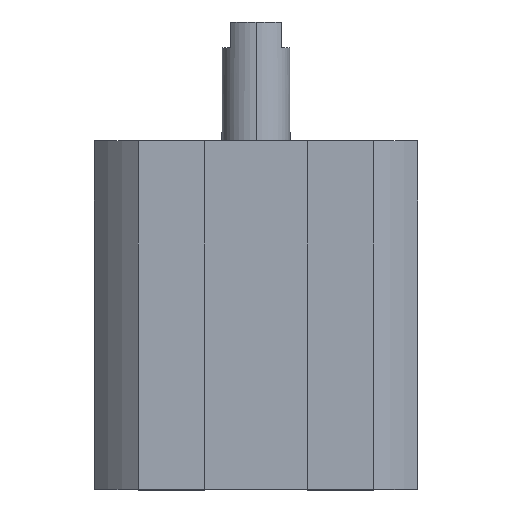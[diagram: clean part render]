
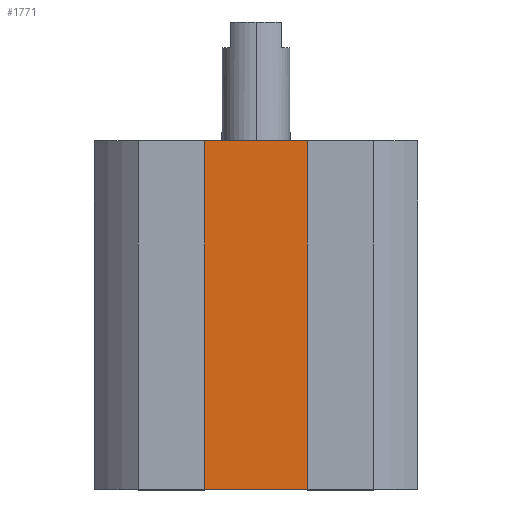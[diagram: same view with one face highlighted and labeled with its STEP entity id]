
A CAD part, top view. The second image highlights one B-rep face of the part: STEP entity #1771.
In plain terms, the highlighted planar face has unit normal (0, 0, 1).
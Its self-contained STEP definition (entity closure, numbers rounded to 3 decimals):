
#196 = EDGE_CURVE ( 'NONE', #1849, #643, #1749, .T. ) ;
#284 = VECTOR ( 'NONE', #1788, 1000. ) ;
#341 = AXIS2_PLACEMENT_3D ( 'NONE', #1702, #841, #1084 ) ;
#392 = DIRECTION ( 'NONE',  ( 0., 1., 0. ) ) ;
#402 = DIRECTION ( 'NONE',  ( 1., 0., 0. ) ) ;
#454 = VERTEX_POINT ( 'NONE', #2512 ) ;
#544 = EDGE_LOOP ( 'NONE', ( #1946, #2451, #1157, #1143 ) ) ;
#561 = EDGE_CURVE ( 'NONE', #643, #454, #1356, .T. ) ;
#643 = VERTEX_POINT ( 'NONE', #1976 ) ;
#747 = VERTEX_POINT ( 'NONE', #1051 ) ;
#763 = VECTOR ( 'NONE', #2504, 1000. ) ;
#841 = DIRECTION ( 'NONE',  ( 0., 0., 1. ) ) ;
#1003 = CARTESIAN_POINT ( 'NONE',  ( 0., -41., 12.75 ) ) ;
#1051 = CARTESIAN_POINT ( 'NONE',  ( 7.75, -41., 12.75 ) ) ;
#1054 = LINE ( 'NONE', #1003, #2613 ) ;
#1081 = CARTESIAN_POINT ( 'NONE',  ( -7.75, -41., 12.75 ) ) ;
#1084 = DIRECTION ( 'NONE',  ( 1., 0., 0. ) ) ;
#1143 = ORIENTED_EDGE ( 'NONE', *, *, #2037, .T. ) ;
#1157 = ORIENTED_EDGE ( 'NONE', *, *, #1994, .T. ) ;
#1347 = FACE_OUTER_BOUND ( 'NONE', #544, .T. ) ;
#1352 = LINE ( 'NONE', #1818, #2064 ) ;
#1356 = LINE ( 'NONE', #2027, #284 ) ;
#1702 = CARTESIAN_POINT ( 'NONE',  ( 0., -41., 12.75 ) ) ;
#1749 = LINE ( 'NONE', #1081, #763 ) ;
#1771 = ADVANCED_FACE ( 'NONE', ( #1347 ), #1904, .T. ) ;
#1788 = DIRECTION ( 'NONE',  ( 1., 0., 0. ) ) ;
#1818 = CARTESIAN_POINT ( 'NONE',  ( 7.75, -41., 12.75 ) ) ;
#1849 = VERTEX_POINT ( 'NONE', #1924 ) ;
#1904 = PLANE ( 'NONE',  #341 ) ;
#1924 = CARTESIAN_POINT ( 'NONE',  ( -7.75, -41., 12.75 ) ) ;
#1946 = ORIENTED_EDGE ( 'NONE', *, *, #561, .F. ) ;
#1976 = CARTESIAN_POINT ( 'NONE',  ( -7.75, 0., 12.75 ) ) ;
#1994 = EDGE_CURVE ( 'NONE', #1849, #747, #1054, .T. ) ;
#2027 = CARTESIAN_POINT ( 'NONE',  ( 0., 0., 12.75 ) ) ;
#2037 = EDGE_CURVE ( 'NONE', #747, #454, #1352, .T. ) ;
#2064 = VECTOR ( 'NONE', #392, 1000. ) ;
#2451 = ORIENTED_EDGE ( 'NONE', *, *, #196, .F. ) ;
#2504 = DIRECTION ( 'NONE',  ( 0., 1., 0. ) ) ;
#2512 = CARTESIAN_POINT ( 'NONE',  ( 7.75, 0., 12.75 ) ) ;
#2613 = VECTOR ( 'NONE', #402, 1000. ) ;
